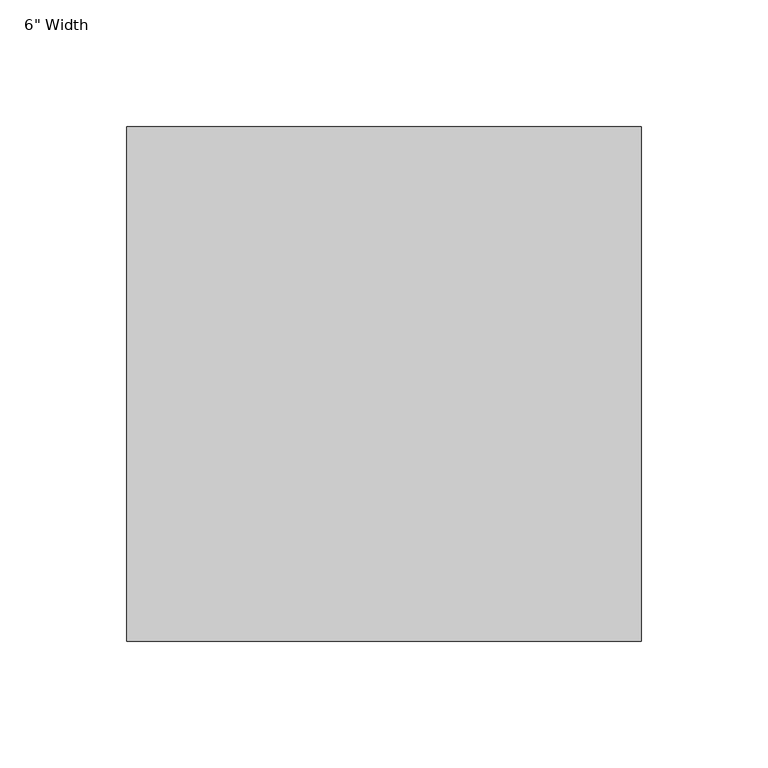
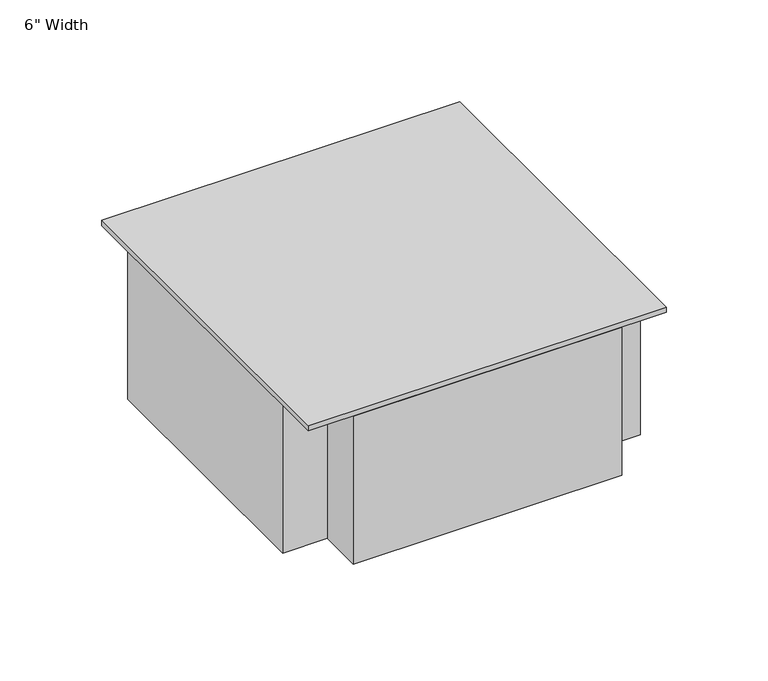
"""IFC4 building model written with IfcOpenShell, lengths in millimetres: proxy geometry."""

from ifc_helpers import new_model, si_unit, frame, origin, place, context, project, spatial, polyline, outline, extrude, source, transform, mapped, element, save


def proxy_0f081905(model_context):
    return source(origin(), model_context, "Body", "SweptSolid", [
        extrude(outline(polyline([(101.6, 101.6), (101.6, -101.6), (-101.6, -101.6), (-101.6, 101.6), (101.6, 101.6)])), frame((0.0, 0.0, -3.175), z_axis=(0.0, 0.0, 1.0), x_axis=(1.0, 0.0, 0.0)), (0.0, 0.0, 1.0), 3.175),
        extrude(outline(polyline([(76.2, 101.6), (76.2, 76.2), (101.6, 76.2), (101.6, -76.2), (76.2, -76.2), (76.2, -101.6), (-76.2, -101.6), (-76.2, -76.2), (-101.6, -76.2), (-101.6, 76.2), (-76.2, 76.2), (-76.2, 101.6), (76.2, 101.6)])), frame((0.0, 0.0, -92.075), z_axis=(0.0, 0.0, 1.0), x_axis=(1.0, 0.0, 0.0)), (0.0, 0.0, 1.0), 88.9),
    ])


if __name__ == "__main__":
    model = new_model("IFC4")
    model_context = context("Model", 3, world=origin())
    ifc_project = project(units=[si_unit("LENGTHUNIT", "METRE", prefix="MILLI")], contexts=[model_context])
    site = spatial("IfcSite", under=ifc_project)
    building = spatial("IfcBuilding", under=site)
    placement = place(None, origin())
    proxy_shape = proxy_0f081905(model_context)
    element("IfcBuildingElementProxy", 1, Name="X_Unit-Wallduct-Wiremold : 6\" Width", ObjectType="X_Unit-Wallduct-Wiremold : 6\" Width", at=placement, inside=building, context=model_context, shape_type="MappedRepresentation", body=[
        mapped(proxy_shape, transform((0.0, 0.0, 0.0), x_axis=(1.0, 0.0, 0.0), y_axis=(0.0, 1.0, 0.0), z_axis=(0.0, 0.0, 1.0))),
    ])
    save(model, "model.ifc")
